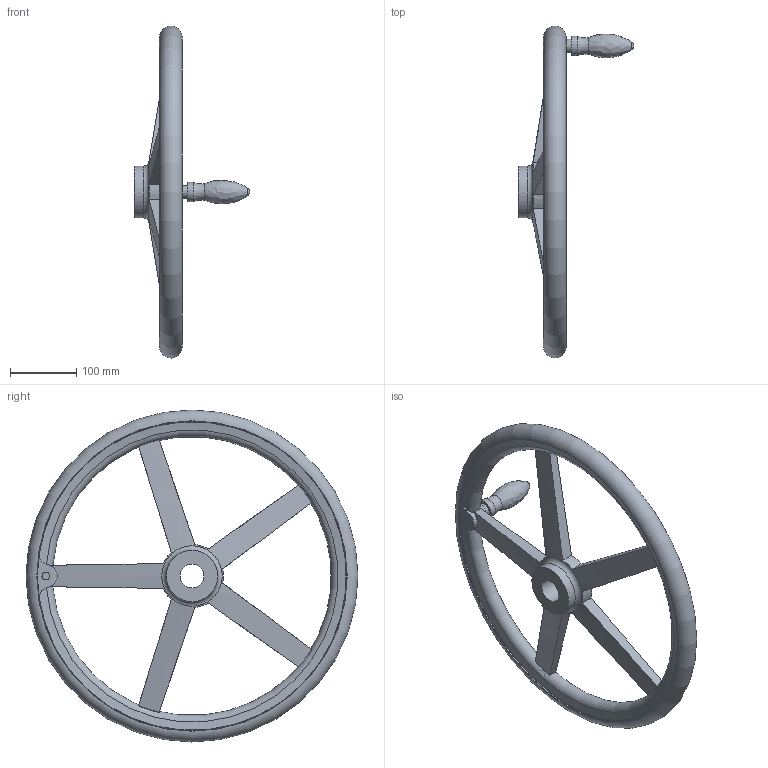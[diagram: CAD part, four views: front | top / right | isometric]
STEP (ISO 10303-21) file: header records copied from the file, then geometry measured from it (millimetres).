
FILE_DESCRIPTION( ( 'STEP AP203' ), '1' );
FILE_NAME( 'C:/Temp/Ganter_Step_05_03_2020/data/1_3/din_950/din_950_b/din_950_b_d/Handwheel DIN 950-AL-500-B36-D.stp', '2020-03-05T10:30:00', ( 'License CC BY-ND 4.0' ), ( 'CADENAS' ), ' ', 'PARTsolutions', ' ' );
FILE_SCHEMA( ( 'CONFIG_CONTROL_DESIGN' ) );
Length unit declared in the file: millimetre
Products named in the file (1): _Handwheel DIN 950-AL-500-B36-D
Bounding box: 174 x 499.98 x 499.98 mm (x, y, z)
Volume: 2151223.6 mm3; surface area: 289337.1 mm2
Topology: 1 solids, 1 shells, 63 faces, 182 edges, 117 vertices
Faces by surface type: torus 21, cylinder 18, plane 16, cone 6, bspline 1, sphere 1
Full cylindrical faces by diameter (mm): 20 x1, 29 x1, 36 x1, 78 x2, 466 x2
Entity records: 2535 total; most frequent: CARTESIAN_POINT 1017, ORIENTED_EDGE 310, DIRECTION 278, EDGE_CURVE 155, AXIS2_PLACEMENT_3D 132, VERTEX_POINT 113, EDGE_LOOP 92, FACE_OUTER_BOUND 79
